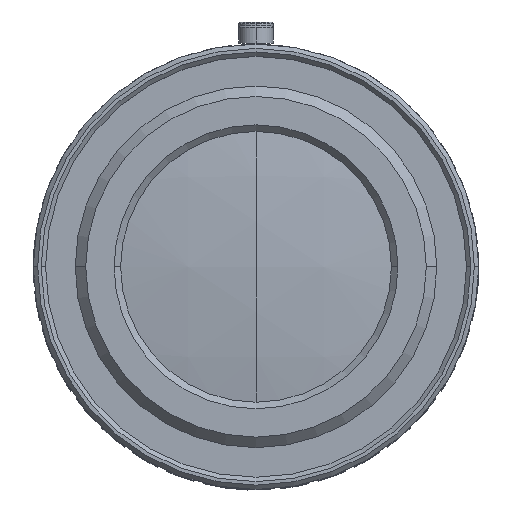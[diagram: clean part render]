
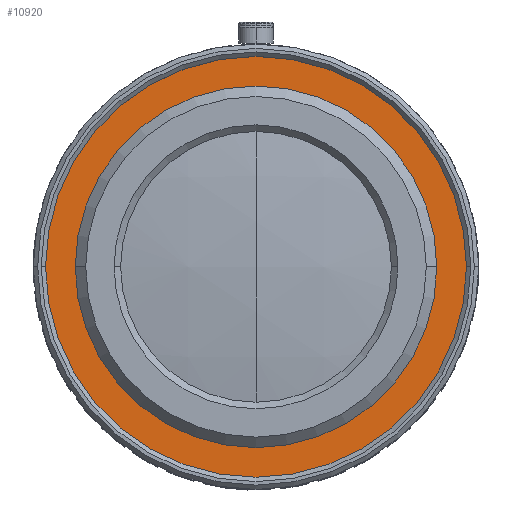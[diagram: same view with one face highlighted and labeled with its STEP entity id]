
A CAD part, top view. The second image highlights one B-rep face of the part: STEP entity #10920.
In plain terms, the highlighted planar face has unit normal (0, 0, 1).
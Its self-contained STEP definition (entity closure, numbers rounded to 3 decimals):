
#602 = CIRCLE ( 'NONE', #1162, 20.7 ) ;
#682 = ORIENTED_EDGE ( 'NONE', *, *, #4944, .T. ) ;
#859 = AXIS2_PLACEMENT_3D ( 'NONE', #8297, #2961, #10738 ) ;
#1055 = CARTESIAN_POINT ( 'NONE',  ( 0., 24.095, 71.96 ) ) ;
#1162 = AXIS2_PLACEMENT_3D ( 'NONE', #6656, #1278, #7547 ) ;
#1204 = CARTESIAN_POINT ( 'NONE',  ( 24.095, 0., 71.96 ) ) ;
#1278 = DIRECTION ( 'NONE',  ( 0., 0., -1. ) ) ;
#1325 = CARTESIAN_POINT ( 'NONE',  ( 0., 0., 71.96 ) ) ;
#1411 = EDGE_LOOP ( 'NONE', ( #9506, #2397 ) ) ;
#1995 = EDGE_LOOP ( 'NONE', ( #11222, #682 ) ) ;
#2246 = DIRECTION ( 'NONE',  ( -1., 0., 0. ) ) ;
#2397 = ORIENTED_EDGE ( 'NONE', *, *, #5868, .F. ) ;
#2961 = DIRECTION ( 'NONE',  ( 0., 0., -1. ) ) ;
#3348 = CIRCLE ( 'NONE', #4509, 24.095 ) ;
#3410 = CIRCLE ( 'NONE', #4092, 24.095 ) ;
#3801 = DIRECTION ( 'NONE',  ( 1., 0., 0. ) ) ;
#3931 = EDGE_CURVE ( 'NONE', #7560, #9649, #602, .T. ) ;
#4092 = AXIS2_PLACEMENT_3D ( 'NONE', #1325, #7596, #2246 ) ;
#4487 = CARTESIAN_POINT ( 'NONE',  ( 0., 0., 71.96 ) ) ;
#4509 = AXIS2_PLACEMENT_3D ( 'NONE', #4487, #10662, #5399 ) ;
#4944 = EDGE_CURVE ( 'NONE', #9649, #7560, #6513, .T. ) ;
#5147 = CARTESIAN_POINT ( 'NONE',  ( -20.7, 0., 71.96 ) ) ;
#5399 = DIRECTION ( 'NONE',  ( -1., 0., 0. ) ) ;
#5568 = PLANE ( 'NONE',  #10727 ) ;
#5868 = EDGE_CURVE ( 'NONE', #8719, #6878, #3410, .T. ) ;
#6513 = CIRCLE ( 'NONE', #859, 20.7 ) ;
#6549 = FACE_BOUND ( 'NONE', #1995, .T. ) ;
#6656 = CARTESIAN_POINT ( 'NONE',  ( 0., 0., 71.96 ) ) ;
#6878 = VERTEX_POINT ( 'NONE', #9793 ) ;
#7547 = DIRECTION ( 'NONE',  ( -1., 0., 0. ) ) ;
#7560 = VERTEX_POINT ( 'NONE', #5147 ) ;
#7596 = DIRECTION ( 'NONE',  ( 0., 0., -1. ) ) ;
#8297 = CARTESIAN_POINT ( 'NONE',  ( 0., 0., 71.96 ) ) ;
#8719 = VERTEX_POINT ( 'NONE', #1204 ) ;
#8973 = CARTESIAN_POINT ( 'NONE',  ( 20.7, 0., 71.96 ) ) ;
#9148 = DIRECTION ( 'NONE',  ( 0., 0., 1. ) ) ;
#9506 = ORIENTED_EDGE ( 'NONE', *, *, #9783, .F. ) ;
#9649 = VERTEX_POINT ( 'NONE', #8973 ) ;
#9783 = EDGE_CURVE ( 'NONE', #6878, #8719, #3348, .T. ) ;
#9793 = CARTESIAN_POINT ( 'NONE',  ( -24.095, 0., 71.96 ) ) ;
#10662 = DIRECTION ( 'NONE',  ( 0., 0., -1. ) ) ;
#10727 = AXIS2_PLACEMENT_3D ( 'NONE', #1055, #9148, #3801 ) ;
#10738 = DIRECTION ( 'NONE',  ( -1., 0., 0. ) ) ;
#10912 = FACE_OUTER_BOUND ( 'NONE', #1411, .T. ) ;
#10920 = ADVANCED_FACE ( 'NONE', ( #6549, #10912 ), #5568, .T. ) ;
#11222 = ORIENTED_EDGE ( 'NONE', *, *, #3931, .T. ) ;
